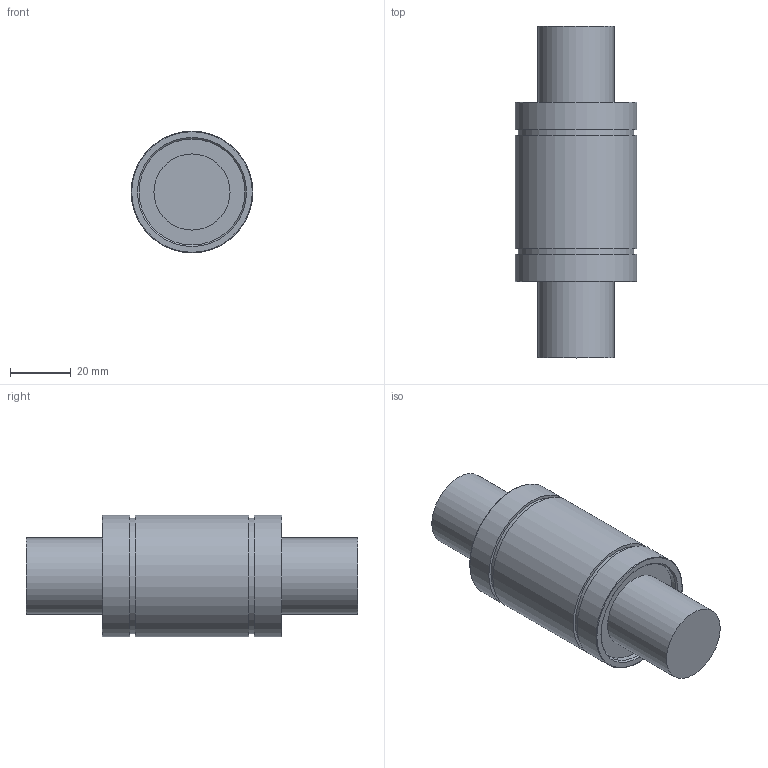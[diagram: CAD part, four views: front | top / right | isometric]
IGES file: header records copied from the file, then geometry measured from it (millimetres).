
Global section: file name: No Iges File Name specified; native system: Autodesk Inventor 2012; preprocessor: AutoDesk Inventor Iges Exporter R2012; author: user2; date: 20130206.100216; units: millimetre
Bounding box: 40 x 109 x 40 mm (x, y, z)
Volume: 96084.9 mm3; surface area: 15100.5 mm2
Topology: 1 solids, 1 shells, 23 faces, 37 edges, 24 vertices
Faces by surface type: plane 10, cylinder 7, revolution 4, torus 2
Full cylindrical faces by diameter (mm): 25 x2, 38 x2, 40 x3
